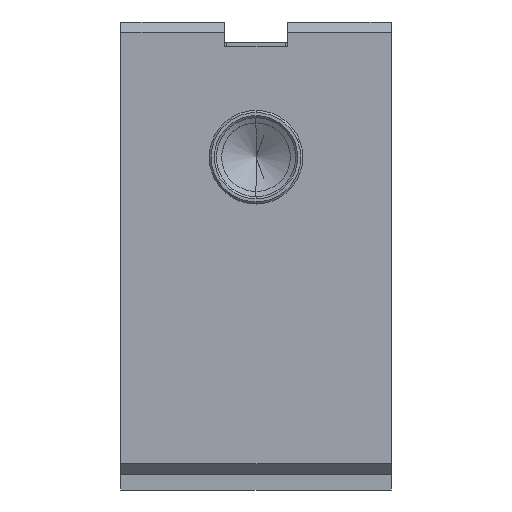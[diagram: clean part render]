
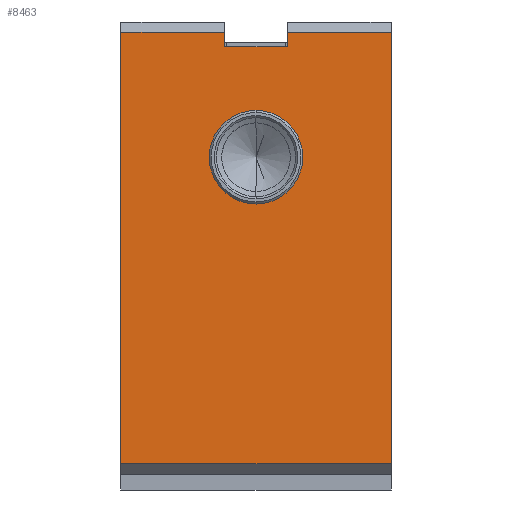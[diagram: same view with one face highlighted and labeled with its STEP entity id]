
A CAD part, left-side view. The second image highlights one B-rep face of the part: STEP entity #8463.
In plain terms, the highlighted planar face has unit normal (-1, 0, 0).
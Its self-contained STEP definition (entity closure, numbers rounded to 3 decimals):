
#88 = CARTESIAN_POINT ( 'NONE',  ( 0., 0., -20.25 ) ) ;
#197 = VERTEX_POINT ( 'NONE', #2854 ) ;
#364 = DIRECTION ( 'NONE',  ( -1., 0., 0. ) ) ;
#454 = EDGE_CURVE ( 'NONE', #5100, #4478, #4243, .T. ) ;
#488 = DIRECTION ( 'NONE',  ( 0., 0., 1. ) ) ;
#501 = FACE_BOUND ( 'NONE', #1750, .T. ) ;
#609 = CARTESIAN_POINT ( 'NONE',  ( 0., 13., -20.25 ) ) ;
#754 = EDGE_CURVE ( 'NONE', #6388, #6211, #4451, .T. ) ;
#837 = DIRECTION ( 'NONE',  ( 0., 0., 1. ) ) ;
#929 = CARTESIAN_POINT ( 'NONE',  ( 0., 13., -0.2 ) ) ;
#980 = CARTESIAN_POINT ( 'NONE',  ( 0., 8., 0.5 ) ) ;
#1031 = VERTEX_POINT ( 'NONE', #980 ) ;
#1098 = ORIENTED_EDGE ( 'NONE', *, *, #3420, .T. ) ;
#1438 = CARTESIAN_POINT ( 'NONE',  ( 0., 8., 0. ) ) ;
#1486 = VECTOR ( 'NONE', #7032, 1000. ) ;
#1588 = EDGE_CURVE ( 'NONE', #4478, #5100, #6691, .T. ) ;
#1710 = EDGE_LOOP ( 'NONE', ( #3552, #1098, #5604, #2469, #6013, #6736, #8389, #2055 ) ) ;
#1750 = EDGE_LOOP ( 'NONE', ( #4469, #8198 ) ) ;
#1920 = DIRECTION ( 'NONE',  ( 0., 0., -1. ) ) ;
#2055 = ORIENTED_EDGE ( 'NONE', *, *, #7338, .T. ) ;
#2313 = CARTESIAN_POINT ( 'NONE',  ( 0., 6.5, -7.75 ) ) ;
#2408 = VERTEX_POINT ( 'NONE', #88 ) ;
#2450 = VERTEX_POINT ( 'NONE', #6196 ) ;
#2469 = ORIENTED_EDGE ( 'NONE', *, *, #4839, .F. ) ;
#2515 = VECTOR ( 'NONE', #3354, 1000. ) ;
#2737 = EDGE_CURVE ( 'NONE', #2408, #2450, #6050, .T. ) ;
#2827 = CARTESIAN_POINT ( 'NONE',  ( 0., 13., 0.5 ) ) ;
#2847 = LINE ( 'NONE', #7595, #6149 ) ;
#2854 = CARTESIAN_POINT ( 'NONE',  ( 0., 13., 0.5 ) ) ;
#2924 = AXIS2_PLACEMENT_3D ( 'NONE', #3924, #6743, #1920 ) ;
#2946 = CARTESIAN_POINT ( 'NONE',  ( 0., 8., -0.2 ) ) ;
#3121 = DIRECTION ( 'NONE',  ( 0., 0., 1. ) ) ;
#3268 = CARTESIAN_POINT ( 'NONE',  ( 0., 5., 0.5 ) ) ;
#3333 = EDGE_CURVE ( 'NONE', #4773, #2408, #7350, .T. ) ;
#3354 = DIRECTION ( 'NONE',  ( 0., -1., 0. ) ) ;
#3420 = EDGE_CURVE ( 'NONE', #6388, #1031, #4806, .T. ) ;
#3552 = ORIENTED_EDGE ( 'NONE', *, *, #754, .F. ) ;
#3686 = DIRECTION ( 'NONE',  ( 0., -1., 0. ) ) ;
#3709 = EDGE_CURVE ( 'NONE', #1031, #197, #4519, .T. ) ;
#3924 = CARTESIAN_POINT ( 'NONE',  ( 0., 13., 0. ) ) ;
#3977 = PLANE ( 'NONE',  #2924 ) ;
#4207 = CARTESIAN_POINT ( 'NONE',  ( 0., 13., -20.25 ) ) ;
#4243 = CIRCLE ( 'NONE', #5413, 2.25 ) ;
#4451 = LINE ( 'NONE', #929, #5373 ) ;
#4459 = CARTESIAN_POINT ( 'NONE',  ( 0., 13., 0. ) ) ;
#4469 = ORIENTED_EDGE ( 'NONE', *, *, #454, .F. ) ;
#4478 = VERTEX_POINT ( 'NONE', #2313 ) ;
#4506 = AXIS2_PLACEMENT_3D ( 'NONE', #8601, #7935, #837 ) ;
#4519 = LINE ( 'NONE', #7424, #6425 ) ;
#4773 = VERTEX_POINT ( 'NONE', #4207 ) ;
#4806 = LINE ( 'NONE', #1438, #1486 ) ;
#4827 = EDGE_CURVE ( 'NONE', #2450, #6630, #5615, .T. ) ;
#4839 = EDGE_CURVE ( 'NONE', #4773, #197, #7267, .T. ) ;
#4946 = VECTOR ( 'NONE', #5680, 1000. ) ;
#5100 = VERTEX_POINT ( 'NONE', #5977 ) ;
#5373 = VECTOR ( 'NONE', #3686, 1000. ) ;
#5413 = AXIS2_PLACEMENT_3D ( 'NONE', #7230, #364, #3121 ) ;
#5528 = DIRECTION ( 'NONE',  ( 0., 1., 0. ) ) ;
#5604 = ORIENTED_EDGE ( 'NONE', *, *, #3709, .T. ) ;
#5615 = LINE ( 'NONE', #2827, #8141 ) ;
#5680 = DIRECTION ( 'NONE',  ( 0., 0., 1. ) ) ;
#5977 = CARTESIAN_POINT ( 'NONE',  ( 0., 6.5, -3.25 ) ) ;
#6013 = ORIENTED_EDGE ( 'NONE', *, *, #3333, .T. ) ;
#6050 = LINE ( 'NONE', #8869, #7015 ) ;
#6149 = VECTOR ( 'NONE', #6915, 1000. ) ;
#6196 = CARTESIAN_POINT ( 'NONE',  ( 0., 0., 0.5 ) ) ;
#6211 = VERTEX_POINT ( 'NONE', #8738 ) ;
#6388 = VERTEX_POINT ( 'NONE', #2946 ) ;
#6425 = VECTOR ( 'NONE', #6702, 1000. ) ;
#6630 = VERTEX_POINT ( 'NONE', #3268 ) ;
#6691 = CIRCLE ( 'NONE', #4506, 2.25 ) ;
#6702 = DIRECTION ( 'NONE',  ( 0., 1., 0. ) ) ;
#6736 = ORIENTED_EDGE ( 'NONE', *, *, #2737, .T. ) ;
#6743 = DIRECTION ( 'NONE',  ( 1., 0., 0. ) ) ;
#6915 = DIRECTION ( 'NONE',  ( 0., 0., -1. ) ) ;
#7015 = VECTOR ( 'NONE', #488, 1000. ) ;
#7032 = DIRECTION ( 'NONE',  ( 0., 0., 1. ) ) ;
#7205 = FACE_OUTER_BOUND ( 'NONE', #1710, .T. ) ;
#7230 = CARTESIAN_POINT ( 'NONE',  ( 0., 6.5, -5.5 ) ) ;
#7267 = LINE ( 'NONE', #4459, #4946 ) ;
#7338 = EDGE_CURVE ( 'NONE', #6630, #6211, #2847, .T. ) ;
#7350 = LINE ( 'NONE', #609, #2515 ) ;
#7424 = CARTESIAN_POINT ( 'NONE',  ( 0., 13., 0.5 ) ) ;
#7595 = CARTESIAN_POINT ( 'NONE',  ( 0., 5., 0. ) ) ;
#7935 = DIRECTION ( 'NONE',  ( -1., 0., 0. ) ) ;
#8141 = VECTOR ( 'NONE', #5528, 1000. ) ;
#8198 = ORIENTED_EDGE ( 'NONE', *, *, #1588, .F. ) ;
#8389 = ORIENTED_EDGE ( 'NONE', *, *, #4827, .T. ) ;
#8463 = ADVANCED_FACE ( 'NONE', ( #501, #7205 ), #3977, .F. ) ;
#8601 = CARTESIAN_POINT ( 'NONE',  ( 0., 6.5, -5.5 ) ) ;
#8738 = CARTESIAN_POINT ( 'NONE',  ( 0., 5., -0.2 ) ) ;
#8869 = CARTESIAN_POINT ( 'NONE',  ( 0., 0., 0. ) ) ;
